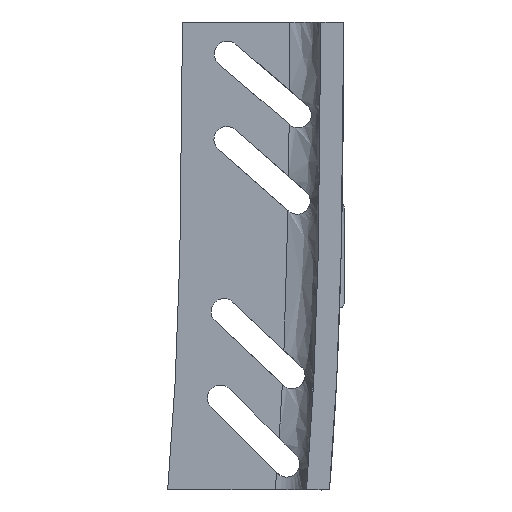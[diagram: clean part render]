
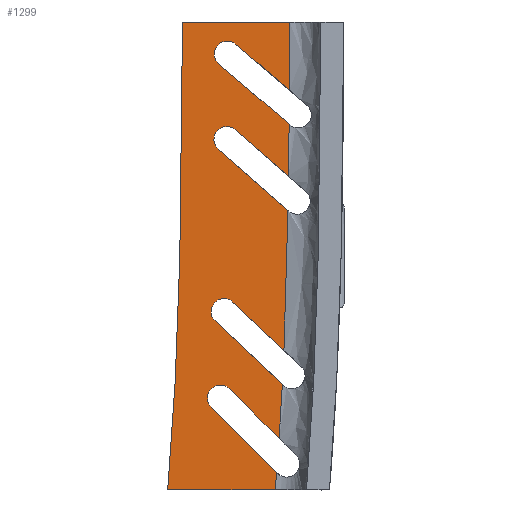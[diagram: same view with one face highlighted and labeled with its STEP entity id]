
A CAD part, front view. The second image highlights one B-rep face of the part: STEP entity #1299.
In plain terms, the highlighted planar face has unit normal (0, -1, 0).
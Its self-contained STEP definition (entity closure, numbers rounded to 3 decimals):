
#78=CIRCLE('',#1385,2.5);
#79=CIRCLE('',#1387,2.5);
#80=CIRCLE('',#1388,2.5);
#81=CIRCLE('',#1389,2.5);
#143=FACE_OUTER_BOUND('',#223,.T.);
#223=EDGE_LOOP('',(#1107,#1108,#1109,#1110,#1111,#1112,#1113,#1114,#1115,
#1116,#1117,#1118,#1119,#1120,#1121,#1122,#1123,#1124,#1125,#1126));
#270=B_SPLINE_CURVE_WITH_KNOTS('',3,(#2298,#2299,#2300,#2301),
 .UNSPECIFIED.,.F.,.F.,(4,4),(0.,0.143),.UNSPECIFIED.);
#274=B_SPLINE_CURVE_WITH_KNOTS('',3,(#2350,#2351,#2352,#2353),
 .UNSPECIFIED.,.F.,.F.,(4,4),(0.214,0.324),
 .UNSPECIFIED.);
#278=B_SPLINE_CURVE_WITH_KNOTS('',3,(#2402,#2403,#2404,#2405,#2406),
 .UNSPECIFIED.,.F.,.F.,(4,1,4),(0.395,0.42,0.688),
 .UNSPECIFIED.);
#282=B_SPLINE_CURVE_WITH_KNOTS('',3,(#2455,#2456,#2457,#2458),
 .UNSPECIFIED.,.F.,.F.,(4,4),(0.76,0.872),
 .UNSPECIFIED.);
#286=B_SPLINE_CURVE_WITH_KNOTS('',3,(#2506,#2507,#2508,#2509),
 .UNSPECIFIED.,.F.,.F.,(4,4),(0.943,0.98),
 .UNSPECIFIED.);
#345=B_SPLINE_CURVE_WITH_KNOTS('',3,(#3848,#3849,#3850,#3851,#3852),
 .UNSPECIFIED.,.F.,.F.,(4,1,4),(0.,0.428,0.999),
 .UNSPECIFIED.);
#352=LINE('',#1784,#422);
#384=LINE('',#3817,#454);
#389=LINE('',#3826,#459);
#390=LINE('',#3832,#460);
#391=LINE('',#3835,#461);
#392=LINE('',#3837,#462);
#393=LINE('',#3840,#463);
#394=LINE('',#3842,#464);
#395=LINE('',#3845,#465);
#396=LINE('',#3847,#466);
#422=VECTOR('',#1417,10.);
#454=VECTOR('',#1547,10.);
#459=VECTOR('',#1554,10.);
#460=VECTOR('',#1563,10.);
#461=VECTOR('',#1566,10.);
#462=VECTOR('',#1567,10.);
#463=VECTOR('',#1570,10.);
#464=VECTOR('',#1571,10.);
#465=VECTOR('',#1574,10.);
#466=VECTOR('',#1575,10.);
#496=VERTEX_POINT('',#1715);
#497=VERTEX_POINT('',#1783);
#518=VERTEX_POINT('',#2295);
#519=VERTEX_POINT('',#2297);
#522=VERTEX_POINT('',#2344);
#523=VERTEX_POINT('',#2349);
#526=VERTEX_POINT('',#2396);
#527=VERTEX_POINT('',#2401);
#530=VERTEX_POINT('',#2449);
#531=VERTEX_POINT('',#2454);
#534=VERTEX_POINT('',#2501);
#598=VERTEX_POINT('',#3816);
#601=VERTEX_POINT('',#3824);
#602=VERTEX_POINT('',#3831);
#603=VERTEX_POINT('',#3833);
#604=VERTEX_POINT('',#3836);
#605=VERTEX_POINT('',#3838);
#606=VERTEX_POINT('',#3841);
#607=VERTEX_POINT('',#3843);
#608=VERTEX_POINT('',#3846);
#631=EDGE_CURVE('',#497,#496,#352,.T.);
#654=EDGE_CURVE('',#518,#519,#270,.T.);
#658=EDGE_CURVE('',#522,#523,#274,.T.);
#662=EDGE_CURVE('',#526,#527,#278,.T.);
#666=EDGE_CURVE('',#530,#531,#282,.T.);
#670=EDGE_CURVE('',#534,#496,#286,.T.);
#774=EDGE_CURVE('',#519,#598,#384,.T.);
#779=EDGE_CURVE('',#601,#522,#389,.T.);
#781=EDGE_CURVE('',#598,#601,#78,.T.);
#782=EDGE_CURVE('',#534,#602,#390,.T.);
#783=EDGE_CURVE('',#602,#603,#79,.T.);
#784=EDGE_CURVE('',#603,#531,#391,.T.);
#785=EDGE_CURVE('',#604,#530,#392,.T.);
#786=EDGE_CURVE('',#605,#604,#80,.T.);
#787=EDGE_CURVE('',#527,#605,#393,.T.);
#788=EDGE_CURVE('',#606,#526,#394,.T.);
#789=EDGE_CURVE('',#607,#606,#81,.T.);
#790=EDGE_CURVE('',#523,#607,#395,.T.);
#791=EDGE_CURVE('',#608,#518,#396,.T.);
#792=EDGE_CURVE('',#608,#497,#345,.T.);
#1107=ORIENTED_EDGE('',*,*,#631,.T.);
#1108=ORIENTED_EDGE('',*,*,#670,.F.);
#1109=ORIENTED_EDGE('',*,*,#782,.T.);
#1110=ORIENTED_EDGE('',*,*,#783,.T.);
#1111=ORIENTED_EDGE('',*,*,#784,.T.);
#1112=ORIENTED_EDGE('',*,*,#666,.F.);
#1113=ORIENTED_EDGE('',*,*,#785,.F.);
#1114=ORIENTED_EDGE('',*,*,#786,.F.);
#1115=ORIENTED_EDGE('',*,*,#787,.F.);
#1116=ORIENTED_EDGE('',*,*,#662,.F.);
#1117=ORIENTED_EDGE('',*,*,#788,.F.);
#1118=ORIENTED_EDGE('',*,*,#789,.F.);
#1119=ORIENTED_EDGE('',*,*,#790,.F.);
#1120=ORIENTED_EDGE('',*,*,#658,.F.);
#1121=ORIENTED_EDGE('',*,*,#779,.F.);
#1122=ORIENTED_EDGE('',*,*,#781,.F.);
#1123=ORIENTED_EDGE('',*,*,#774,.F.);
#1124=ORIENTED_EDGE('',*,*,#654,.F.);
#1125=ORIENTED_EDGE('',*,*,#791,.F.);
#1126=ORIENTED_EDGE('',*,*,#792,.T.);
#1245=PLANE('',#1386);
#1299=ADVANCED_FACE('',(#143),#1245,.T.);
#1385=AXIS2_PLACEMENT_3D('',#3829,#1559,#1560);
#1386=AXIS2_PLACEMENT_3D('',#3830,#1561,#1562);
#1387=AXIS2_PLACEMENT_3D('',#3834,#1564,#1565);
#1388=AXIS2_PLACEMENT_3D('',#3839,#1568,#1569);
#1389=AXIS2_PLACEMENT_3D('',#3844,#1572,#1573);
#1417=DIRECTION('',(1.,0.,0.));
#1547=DIRECTION('',(-0.759,0.,0.651));
#1554=DIRECTION('',(0.759,0.,-0.651));
#1559=DIRECTION('center_axis',(0.,-1.,0.));
#1560=DIRECTION('ref_axis',(-0.651,0.,-0.759));
#1561=DIRECTION('center_axis',(0.,-1.,0.));
#1562=DIRECTION('ref_axis',(0.,0.,-1.));
#1563=DIRECTION('',(-0.707,0.,0.707));
#1564=DIRECTION('center_axis',(0.,1.,0.));
#1565=DIRECTION('ref_axis',(-0.707,0.,-0.707));
#1566=DIRECTION('',(0.707,0.,-0.707));
#1567=DIRECTION('',(0.727,0.,-0.686));
#1568=DIRECTION('center_axis',(0.,-1.,0.));
#1569=DIRECTION('ref_axis',(-0.686,0.,-0.727));
#1570=DIRECTION('',(-0.727,0.,0.686));
#1571=DIRECTION('',(0.752,0.,-0.659));
#1572=DIRECTION('center_axis',(0.,-1.,0.));
#1573=DIRECTION('ref_axis',(-0.659,0.,-0.752));
#1574=DIRECTION('',(-0.752,0.,0.659));
#1575=DIRECTION('',(1.,0.,0.));
#1715=CARTESIAN_POINT('',(18.711,32.338,-90.));
#1783=CARTESIAN_POINT('',(-1.965,32.338,-90.));
#1784=CARTESIAN_POINT('',(18.246,32.338,-90.));
#2295=CARTESIAN_POINT('',(21.481,32.338,0.));
#2297=CARTESIAN_POINT('',(21.432,32.338,-13.1));
#2298=CARTESIAN_POINT('Ctrl Pts',(21.481,32.338,0.));
#2299=CARTESIAN_POINT('Ctrl Pts',(21.476,32.338,-4.369));
#2300=CARTESIAN_POINT('Ctrl Pts',(21.461,32.338,-8.735));
#2301=CARTESIAN_POINT('Ctrl Pts',(21.434,32.338,-13.099));
#2344=CARTESIAN_POINT('',(21.382,32.338,-19.644));
#2349=CARTESIAN_POINT('',(21.266,32.338,-29.656));
#2350=CARTESIAN_POINT('Ctrl Pts',(21.385,32.338,-19.644));
#2351=CARTESIAN_POINT('Ctrl Pts',(21.354,32.338,-22.981));
#2352=CARTESIAN_POINT('Ctrl Pts',(21.316,32.338,-26.318));
#2353=CARTESIAN_POINT('Ctrl Pts',(21.268,32.338,-29.656));
#2396=CARTESIAN_POINT('',(21.162,32.338,-36.209));
#2401=CARTESIAN_POINT('',(20.385,32.338,-63.114));
#2402=CARTESIAN_POINT('Ctrl Pts',(21.162,32.338,-36.21));
#2403=CARTESIAN_POINT('Ctrl Pts',(21.148,32.338,-36.961));
#2404=CARTESIAN_POINT('Ctrl Pts',(20.98,32.338,-45.91));
#2405=CARTESIAN_POINT('Ctrl Pts',(20.736,32.338,-54.878));
#2406=CARTESIAN_POINT('Ctrl Pts',(20.385,32.338,-63.115));
#2449=CARTESIAN_POINT('',(20.077,32.338,-69.698));
#2454=CARTESIAN_POINT('',(19.466,32.338,-80.047));
#2455=CARTESIAN_POINT('Ctrl Pts',(20.076,32.338,-69.7));
#2456=CARTESIAN_POINT('Ctrl Pts',(19.899,32.338,-73.149));
#2457=CARTESIAN_POINT('Ctrl Pts',(19.696,32.338,-76.6));
#2458=CARTESIAN_POINT('Ctrl Pts',(19.465,32.338,-80.049));
#2501=CARTESIAN_POINT('',(18.986,32.338,-86.637));
#2506=CARTESIAN_POINT('Ctrl Pts',(18.986,32.338,-86.637));
#2507=CARTESIAN_POINT('Ctrl Pts',(18.898,32.338,-87.759));
#2508=CARTESIAN_POINT('Ctrl Pts',(18.806,32.338,-88.88));
#2509=CARTESIAN_POINT('Ctrl Pts',(18.711,32.338,-90.));
#3816=CARTESIAN_POINT('',(11.127,32.338,-4.259));
#3817=CARTESIAN_POINT('',(13.057,32.338,-5.914));
#3824=CARTESIAN_POINT('',(7.871,32.338,-8.054));
#3826=CARTESIAN_POINT('',(16.632,32.338,-15.569));
#3829=CARTESIAN_POINT('Origin',(9.499,32.338,-6.156));
#3830=CARTESIAN_POINT('Origin',(21.481,32.338,0.));
#3831=CARTESIAN_POINT('',(6.416,32.338,-74.067));
#3832=CARTESIAN_POINT('',(-1.971,32.338,-65.681));
#3833=CARTESIAN_POINT('',(9.951,32.338,-70.532));
#3834=CARTESIAN_POINT('Origin',(8.184,32.338,-72.299));
#3835=CARTESIAN_POINT('',(-4.799,32.338,-55.781));
#3836=CARTESIAN_POINT('',(7.145,32.338,-57.494));
#3837=CARTESIAN_POINT('',(3.132,32.338,-53.707));
#3838=CARTESIAN_POINT('',(10.576,32.338,-53.857));
#3839=CARTESIAN_POINT('Origin',(8.861,32.338,-55.675));
#3840=CARTESIAN_POINT('',(0.019,32.338,-43.893));
#3841=CARTESIAN_POINT('',(7.77,32.338,-24.488));
#3842=CARTESIAN_POINT('',(12.356,32.338,-28.502));
#3843=CARTESIAN_POINT('',(11.063,32.338,-20.726));
#3844=CARTESIAN_POINT('Origin',(9.417,32.338,-22.607));
#3845=CARTESIAN_POINT('',(8.877,32.338,-18.812));
#3846=CARTESIAN_POINT('',(0.881,32.338,0.));
#3847=CARTESIAN_POINT('',(0.881,32.338,0.));
#3848=CARTESIAN_POINT('Ctrl Pts',(0.881,32.338,0.));
#3849=CARTESIAN_POINT('Ctrl Pts',(0.865,32.338,-12.982));
#3850=CARTESIAN_POINT('Ctrl Pts',(0.645,32.338,-43.208));
#3851=CARTESIAN_POINT('Ctrl Pts',(-0.483,32.338,-73.159));
#3852=CARTESIAN_POINT('Ctrl Pts',(-1.965,32.338,-90.));
